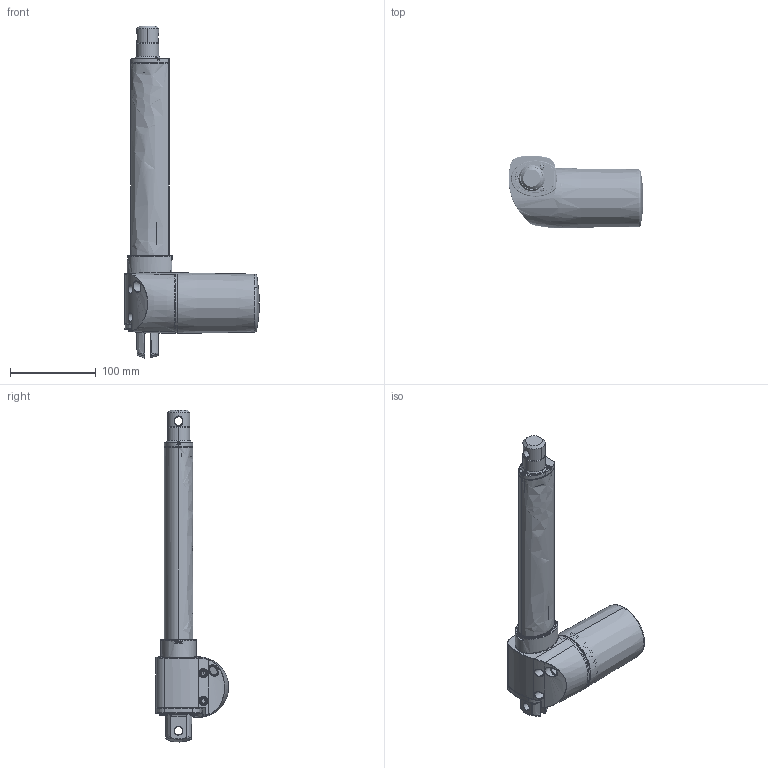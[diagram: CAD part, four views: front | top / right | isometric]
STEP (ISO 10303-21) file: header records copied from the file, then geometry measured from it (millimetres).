
FILE_DESCRIPTION (( 'STEP AP203' ), '1' );
FILE_NAME ('3D_TA49.STEP', '2022-07-25T06:54:34', ( '' ), ( '' ), 'SwSTEP 2.0', 'SolidWorks 2015', '' );
FILE_SCHEMA (( 'CONFIG_CONTROL_DESIGN' ));
Products named in the file (1): 3D_TA49
Bounding box: 157.62 x 85.31 x 388.17 mm (x, y, z)
Volume: 319507.5 mm3; surface area: 285677.2 mm2
Topology: 20 solids, 22 shells, 3507 faces, 9061 edges, 5690 vertices
Faces by surface type: bspline 1237, plane 972, cylinder 954, cone 344
Entity records: 195471 total; most frequent: CARTESIAN_POINT 120533, ORIENTED_EDGE 18034, DIRECTION 12272, EDGE_CURVE 9017, VERTEX_POINT 5690, AXIS2_PLACEMENT_3D 4404, EDGE_LOOP 3717, FACE_OUTER_BOUND 3507
